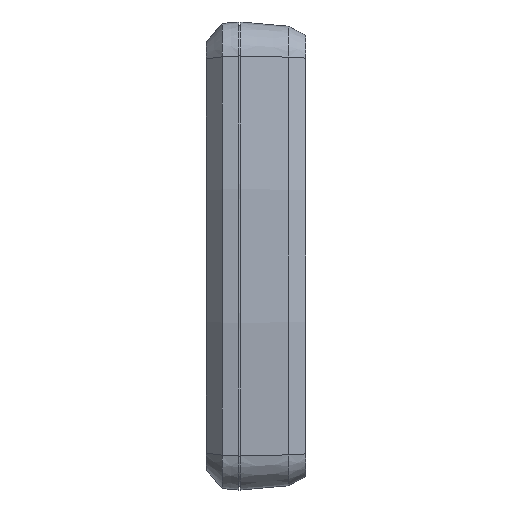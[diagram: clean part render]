
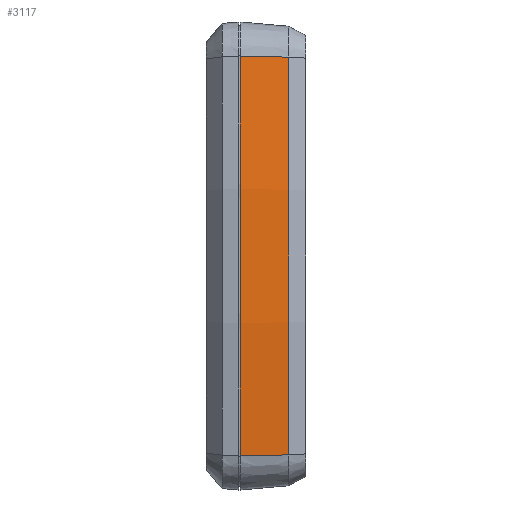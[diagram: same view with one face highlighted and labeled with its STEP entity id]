
A CAD part, left-side view. The second image highlights one B-rep face of the part: STEP entity #3117.
In plain terms, the highlighted conical face has half-angle 5 degrees and reference radius 565 mm.
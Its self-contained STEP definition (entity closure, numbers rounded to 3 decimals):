
#330 = DIRECTION ( 'NONE',  ( 0., 0., 1. ) ) ;
#429 = EDGE_CURVE ( 'NONE', #8794, #5104, #12083, .T. ) ;
#848 = CARTESIAN_POINT ( 'NONE',  ( 470., 0., 0. ) ) ;
#884 = CARTESIAN_POINT ( 'NONE',  ( 470., -15.521, 0. ) ) ;
#911 = CARTESIAN_POINT ( 'NONE',  ( -91.373, 0., -63.914 ) ) ;
#1311 = ORIENTED_EDGE ( 'NONE', *, *, #9527, .T. ) ;
#1873 = DIRECTION ( 'NONE',  ( 0., 0., 1. ) ) ;
#2438 = VERTEX_POINT ( 'NONE', #5279 ) ;
#2707 = DIRECTION ( 'NONE',  ( -0.087, 0.996, -0.01 ) ) ;
#3117 = ADVANCED_FACE ( 'NONE', ( #6480 ), #3529, .T. ) ;
#3129 = ORIENTED_EDGE ( 'NONE', *, *, #429, .T. ) ;
#3159 = VECTOR ( 'NONE', #2707, 1000. ) ;
#3529 = CONICAL_SURFACE ( 'NONE', #7513, 565., 0.087 ) ;
#4253 = CIRCLE ( 'NONE', #6229, 563.642 ) ;
#5092 = ORIENTED_EDGE ( 'NONE', *, *, #8034, .F. ) ;
#5104 = VERTEX_POINT ( 'NONE', #9736 ) ;
#5170 = LINE ( 'NONE', #8620, #3159 ) ;
#5279 = CARTESIAN_POINT ( 'NONE',  ( -90.024, -15.521, -63.76 ) ) ;
#6229 = AXIS2_PLACEMENT_3D ( 'NONE', #884, #7786, #1873 ) ;
#6245 = DIRECTION ( 'NONE',  ( 0., 1., 0. ) ) ;
#6480 = FACE_OUTER_BOUND ( 'NONE', #10709, .T. ) ;
#6909 = AXIS2_PLACEMENT_3D ( 'NONE', #12147, #6245, #330 ) ;
#7513 = AXIS2_PLACEMENT_3D ( 'NONE', #848, #12675, #8742 ) ;
#7786 = DIRECTION ( 'NONE',  ( 0., 1., 0. ) ) ;
#8034 = EDGE_CURVE ( 'NONE', #2438, #10015, #5170, .T. ) ;
#8620 = CARTESIAN_POINT ( 'NONE',  ( -91.373, 0., -63.914 ) ) ;
#8742 = DIRECTION ( 'NONE',  ( 0., 0., 1. ) ) ;
#8794 = VERTEX_POINT ( 'NONE', #9343 ) ;
#9016 = DIRECTION ( 'NONE',  ( -0.087, 0.996, 0.01 ) ) ;
#9162 = CIRCLE ( 'NONE', #6909, 565. ) ;
#9343 = CARTESIAN_POINT ( 'NONE',  ( -90.024, -15.521, 63.76 ) ) ;
#9453 = VECTOR ( 'NONE', #9016, 1000. ) ;
#9527 = EDGE_CURVE ( 'NONE', #2438, #8794, #4253, .T. ) ;
#9736 = CARTESIAN_POINT ( 'NONE',  ( -91.373, 0., 63.914 ) ) ;
#10015 = VERTEX_POINT ( 'NONE', #911 ) ;
#10709 = EDGE_LOOP ( 'NONE', ( #5092, #1311, #3129, #11579 ) ) ;
#11404 = EDGE_CURVE ( 'NONE', #10015, #5104, #9162, .T. ) ;
#11579 = ORIENTED_EDGE ( 'NONE', *, *, #11404, .F. ) ;
#11958 = CARTESIAN_POINT ( 'NONE',  ( -91.373, 0., 63.914 ) ) ;
#12083 = LINE ( 'NONE', #11958, #9453 ) ;
#12147 = CARTESIAN_POINT ( 'NONE',  ( 470., 0., 0. ) ) ;
#12675 = DIRECTION ( 'NONE',  ( 0., 1., 0. ) ) ;
